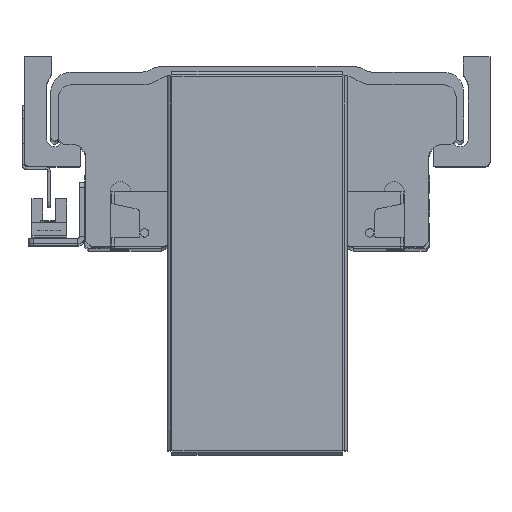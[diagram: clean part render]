
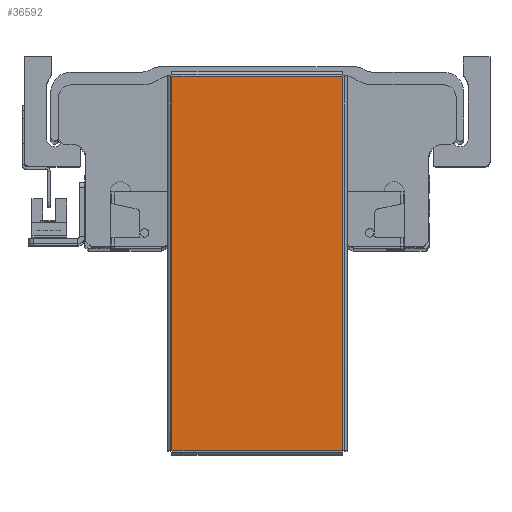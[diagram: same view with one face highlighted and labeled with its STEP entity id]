
A CAD part, top view. The second image highlights one B-rep face of the part: STEP entity #36592.
In plain terms, the highlighted planar face has unit normal (0, 0, 1) as drawn and (0, -1, 0) by its records, which use the part's own axes.
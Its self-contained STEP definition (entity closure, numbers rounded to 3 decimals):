
#2010 = FACE_OUTER_BOUND ( 'NONE', #40569, .T. ) ;
#2614 = DIRECTION ( 'NONE',  ( 0., 0., 1. ) ) ;
#2643 = CARTESIAN_POINT ( 'NONE',  ( 0., -1., 0. ) ) ;
#2645 = DIRECTION ( 'NONE',  ( 0., 1., 0. ) ) ;
#2670 = PLANE ( 'NONE',  #49276 ) ;
#13230 = CARTESIAN_POINT ( 'NONE',  ( -73.263, -1., 33.363 ) ) ;
#13265 = CARTESIAN_POINT ( 'NONE',  ( 73.263, -1., -33.363 ) ) ;
#13269 = CARTESIAN_POINT ( 'NONE',  ( -73.263, -1., -33.363 ) ) ;
#13274 = CARTESIAN_POINT ( 'NONE',  ( 73.263, -1., 33.363 ) ) ;
#14248 = EDGE_CURVE ( 'NONE', #41497, #41474, #36974, .T. ) ;
#14257 = EDGE_CURVE ( 'NONE', #41558, #41511, #36948, .T. ) ;
#14272 = EDGE_CURVE ( 'NONE', #41474, #41558, #36952, .T. ) ;
#14297 = EDGE_CURVE ( 'NONE', #41511, #41497, #37139, .T. ) ;
#17337 = DIRECTION ( 'NONE',  ( -1., 0., 0. ) ) ;
#17351 = CARTESIAN_POINT ( 'NONE',  ( 73.293, -1., 33.363 ) ) ;
#17413 = DIRECTION ( 'NONE',  ( 1., 0., 0. ) ) ;
#17416 = CARTESIAN_POINT ( 'NONE',  ( -73.293, -1., -33.363 ) ) ;
#17446 = CARTESIAN_POINT ( 'NONE',  ( -73.263, -1., 33.393 ) ) ;
#17455 = DIRECTION ( 'NONE',  ( 0., 0., -1. ) ) ;
#17497 = DIRECTION ( 'NONE',  ( 0., 0., 1. ) ) ;
#17513 = CARTESIAN_POINT ( 'NONE',  ( 73.263, -1., -33.393 ) ) ;
#25172 = ORIENTED_EDGE ( 'NONE', *, *, #14248, .T. ) ;
#25181 = ORIENTED_EDGE ( 'NONE', *, *, #14272, .T. ) ;
#25238 = ORIENTED_EDGE ( 'NONE', *, *, #14257, .T. ) ;
#25249 = ORIENTED_EDGE ( 'NONE', *, *, #14297, .T. ) ;
#36592 = ADVANCED_FACE ( 'NONE', ( #2010 ), #2670, .F. ) ;
#36948 = LINE ( 'NONE', #17416, #36980 ) ;
#36952 = LINE ( 'NONE', #17446, #37013 ) ;
#36974 = LINE ( 'NONE', #17351, #37006 ) ;
#36980 = VECTOR ( 'NONE', #17413, 1000. ) ;
#37006 = VECTOR ( 'NONE', #17337, 1000. ) ;
#37013 = VECTOR ( 'NONE', #17455, 1000. ) ;
#37062 = VECTOR ( 'NONE', #17497, 1000. ) ;
#37139 = LINE ( 'NONE', #17513, #37062 ) ;
#40569 = EDGE_LOOP ( 'NONE', ( #25172, #25181, #25238, #25249 ) ) ;
#41474 = VERTEX_POINT ( 'NONE', #13230 ) ;
#41497 = VERTEX_POINT ( 'NONE', #13274 ) ;
#41511 = VERTEX_POINT ( 'NONE', #13265 ) ;
#41558 = VERTEX_POINT ( 'NONE', #13269 ) ;
#49276 = AXIS2_PLACEMENT_3D ( 'NONE', #2643, #2645, #2614 ) ;
